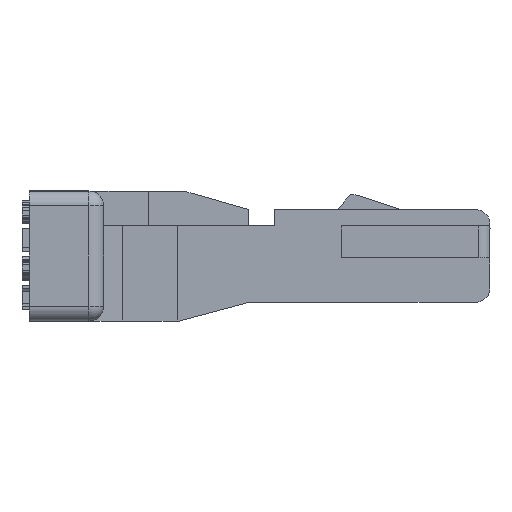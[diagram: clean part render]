
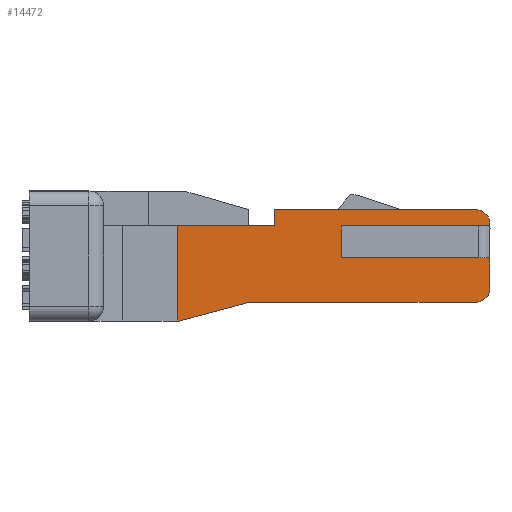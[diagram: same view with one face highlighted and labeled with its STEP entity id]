
A CAD part, left-side view. The second image highlights one B-rep face of the part: STEP entity #14472.
In plain terms, the highlighted planar face has unit normal (-1, 0, 0).
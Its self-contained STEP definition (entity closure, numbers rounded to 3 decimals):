
#3307=DIRECTION('',(0.,0.,-1.));
#3308=VECTOR('',#3307,0.4);
#3309=CARTESIAN_POINT('',(1.5,0.,-0.9));
#3310=LINE('',#3309,#3308);
#3311=CARTESIAN_POINT('',(1.5,0.2,-1.3));
#3312=DIRECTION('',(1.,0.,0.));
#3313=DIRECTION('',(0.,-1.,0.));
#3314=AXIS2_PLACEMENT_3D('',#3311,#3312,#3313);
#3316=DIRECTION('',(0.,1.,0.));
#3317=VECTOR('',#3316,3.05);
#3318=CARTESIAN_POINT('',(1.5,0.2,-1.5));
#3319=LINE('',#3318,#3317);
#3320=DIRECTION('',(0.,0.966,-0.259));
#3321=VECTOR('',#3320,0.966);
#3322=CARTESIAN_POINT('',(1.5,3.25,-1.5));
#3323=LINE('',#3322,#3321);
#3324=DIRECTION('',(0.,1.,0.));
#3325=VECTOR('',#3324,0.027);
#3326=CARTESIAN_POINT('',(1.5,4.183,-1.75));
#3327=LINE('',#3326,#3325);
#3328=DIRECTION('',(0.,-1.,0.));
#3329=VECTOR('',#3328,1.31);
#3330=CARTESIAN_POINT('',(1.5,4.21,-0.47));
#3331=LINE('',#3330,#3329);
#3332=DIRECTION('',(0.,0.,1.));
#3333=VECTOR('',#3332,0.221);
#3334=CARTESIAN_POINT('',(1.5,2.9,-0.47));
#3335=LINE('',#3334,#3333);
#3336=DIRECTION('',(0.,-1.,0.));
#3337=VECTOR('',#3336,2.7);
#3338=CARTESIAN_POINT('',(1.5,2.9,-0.249));
#3339=LINE('',#3338,#3337);
#3340=CARTESIAN_POINT('',(1.5,0.2,-0.449));
#3341=DIRECTION('',(1.,0.,0.));
#3342=DIRECTION('',(0.,0.,1.));
#3343=AXIS2_PLACEMENT_3D('',#3340,#3341,#3342);
#3345=DIRECTION('',(0.,0.,-1.));
#3346=VECTOR('',#3345,0.021);
#3347=CARTESIAN_POINT('',(1.5,0.,-0.449));
#3348=LINE('',#3347,#3346);
#3354=DIRECTION('',(0.,-1.,0.));
#3355=VECTOR('',#3354,2.);
#3356=CARTESIAN_POINT('',(1.5,2.,-0.47));
#3357=LINE('',#3356,#3355);
#3375=DIRECTION('',(0.,1.,0.));
#3376=VECTOR('',#3375,2.);
#3377=CARTESIAN_POINT('',(1.5,0.,-0.9));
#3378=LINE('',#3377,#3376);
#3379=DIRECTION('',(0.,0.,1.));
#3380=VECTOR('',#3379,0.43);
#3381=CARTESIAN_POINT('',(1.5,2.,-0.9));
#3382=LINE('',#3381,#3380);
#3411=DIRECTION('',(0.,0.,-1.));
#3412=VECTOR('',#3411,1.28);
#3413=CARTESIAN_POINT('',(1.5,4.21,-0.47));
#3414=LINE('',#3413,#3412);
#7563=CARTESIAN_POINT('',(1.5,4.21,-1.75));
#7564=VERTEX_POINT('',#7563);
#7565=CARTESIAN_POINT('',(1.5,4.183,-1.75));
#7566=VERTEX_POINT('',#7565);
#7587=CARTESIAN_POINT('',(1.5,2.9,-0.47));
#7589=VERTEX_POINT('',#7587);
#7591=CARTESIAN_POINT('',(1.5,4.21,-0.47));
#7592=VERTEX_POINT('',#7591);
#7599=CARTESIAN_POINT('',(1.5,2.9,-0.249));
#7601=VERTEX_POINT('',#7599);
#7611=CARTESIAN_POINT('',(1.5,0.2,-0.249));
#7612=VERTEX_POINT('',#7611);
#7691=CARTESIAN_POINT('',(1.5,0.,-0.449));
#7693=VERTEX_POINT('',#7691);
#7741=CARTESIAN_POINT('',(1.5,0.,-0.9));
#7742=CARTESIAN_POINT('',(1.5,0.,-1.3));
#7743=VERTEX_POINT('',#7741);
#7744=VERTEX_POINT('',#7742);
#7747=CARTESIAN_POINT('',(1.5,0.,-0.47));
#7749=VERTEX_POINT('',#7747);
#8387=CARTESIAN_POINT('',(1.5,0.2,-1.5));
#8389=VERTEX_POINT('',#8387);
#8393=CARTESIAN_POINT('',(1.5,3.25,-1.5));
#8394=VERTEX_POINT('',#8393);
#8395=CARTESIAN_POINT('',(1.5,2.,-0.47));
#8396=VERTEX_POINT('',#8395);
#8397=CARTESIAN_POINT('',(1.5,2.,-0.9));
#8398=VERTEX_POINT('',#8397);
#14445=CARTESIAN_POINT('',(1.5,2.105,-1.));
#14446=DIRECTION('',(1.,0.,0.));
#14447=DIRECTION('',(0.,1.,0.));
#14448=AXIS2_PLACEMENT_3D('',#14445,#14446,#14447);
#14449=PLANE('',#14448);
#14451=ORIENTED_EDGE('',*,*,#14450,.F.);
#14453=ORIENTED_EDGE('',*,*,#14452,.F.);
#14455=ORIENTED_EDGE('',*,*,#14454,.F.);
#14456=ORIENTED_EDGE('',*,*,#9968,.T.);
#14457=ORIENTED_EDGE('',*,*,#9947,.T.);
#14458=ORIENTED_EDGE('',*,*,#9926,.T.);
#14459=ORIENTED_EDGE('',*,*,#9909,.T.);
#14460=ORIENTED_EDGE('',*,*,#9894,.T.);
#14462=ORIENTED_EDGE('',*,*,#14461,.F.);
#14464=ORIENTED_EDGE('',*,*,#14463,.T.);
#14465=ORIENTED_EDGE('',*,*,#14437,.T.);
#14466=ORIENTED_EDGE('',*,*,#10747,.T.);
#14468=ORIENTED_EDGE('',*,*,#14467,.T.);
#14469=ORIENTED_EDGE('',*,*,#9976,.T.);
#14470=EDGE_LOOP('',(#14451,#14453,#14455,#14456,#14457,#14458,#14459,#14460,
#14462,#14464,#14465,#14466,#14468,#14469));
#14471=FACE_OUTER_BOUND('',#14470,.F.);
#3315=CIRCLE('',#3314,0.2);
#3344=CIRCLE('',#3343,0.2);
#9894=EDGE_CURVE('',#7566,#7564,#3327,.T.);
#9909=EDGE_CURVE('',#8394,#7566,#3323,.T.);
#9926=EDGE_CURVE('',#8389,#8394,#3319,.T.);
#9947=EDGE_CURVE('',#7744,#8389,#3315,.T.);
#9968=EDGE_CURVE('',#7743,#7744,#3310,.T.);
#9976=EDGE_CURVE('',#7693,#7749,#3348,.T.);
#10747=EDGE_CURVE('',#7601,#7612,#3339,.T.);
#14437=EDGE_CURVE('',#7589,#7601,#3335,.T.);
#14450=EDGE_CURVE('',#8396,#7749,#3357,.T.);
#14452=EDGE_CURVE('',#8398,#8396,#3382,.T.);
#14454=EDGE_CURVE('',#7743,#8398,#3378,.T.);
#14461=EDGE_CURVE('',#7592,#7564,#3414,.T.);
#14463=EDGE_CURVE('',#7592,#7589,#3331,.T.);
#14467=EDGE_CURVE('',#7612,#7693,#3344,.T.);
#14472=ADVANCED_FACE('',(#14471),#14449,.F.);
